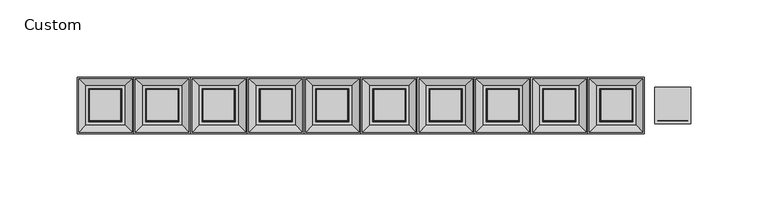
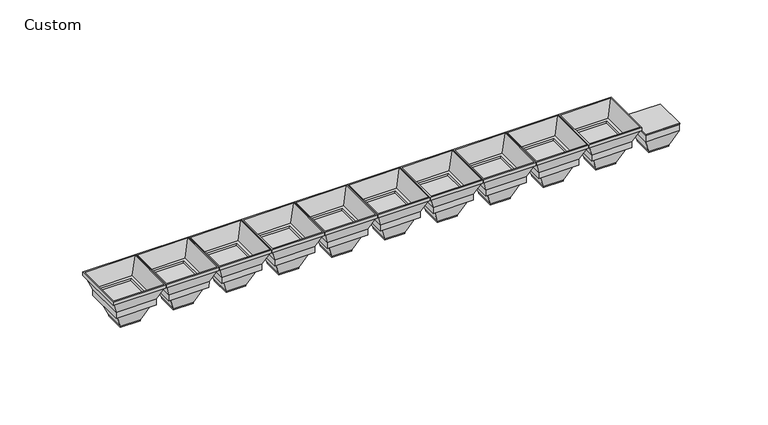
"""IFC4 building model written with IfcOpenShell, lengths in millimetres: light fixture geometry, Lighting-Pendant-Axis-Sculpt-Linear-MikroLite : Custom."""

from ifc_helpers import new_model, si_unit, frame, origin, place, context, project, spatial, polyline, outline, extrude, faceted_brep, source, transform, mapped, element, save


def custom_e5362112(model_context):
    return source(origin(), model_context, "Body", "SolidModel", [
        extrude(outline(polyline([(153.9668225, 11.7681775), (177.5031775, 11.7681775), (177.5031775, -11.7681775), (153.9668225, -11.7681775), (153.9668225, 11.7681775)])), frame((0.0, 0.0, 674.2085879), z_axis=(0.0, 0.0, 1.0), x_axis=(1.0, 0.0, 0.0)), (0.0, 0.0, 1.0), 0.79375),
        faceted_brep([(160.796646, 4.938354, 657.96345), (155.9794569, 9.7555431, 669.7971206), (155.9794569, -9.7555431, 669.7971206), (160.796646, -4.938354, 657.96345), (161.590396, 4.144604, 657.0197), (161.590396, 4.144604, 657.96345), (161.590396, -4.144604, 657.96345), (161.590396, -4.144604, 657.0197), (158.7847208, 6.9502792, 657.81345), (158.7847208, 6.9502792, 657.0197), (158.7847208, -6.9502792, 657.0197), (158.7847208, -6.9502792, 657.81345), (154.0660051, 11.6689949, 669.4052154), (154.0660051, -11.6689949, 669.4052154), (155.9049878, 9.8300122, 674.06345), (155.9049878, -9.8300122, 674.06345), (175.4905431, -9.7555431, 669.7971206), (170.673354, -4.938354, 657.96345), (169.879604, -4.144604, 657.96345), (169.879604, -4.144604, 657.0197), (172.6852792, -6.9502792, 657.0197), (172.6852792, -6.9502792, 657.81345), (177.4039949, -11.6689949, 669.4052154), (175.5650122, -9.8300122, 674.06345), (175.4905431, 9.7555431, 669.7971206), (170.673354, 4.938354, 657.96345), (169.879604, 4.144604, 657.96345), (169.879604, 4.144604, 657.0197), (172.6852792, 6.9502792, 657.0197), (172.6852792, 6.9502792, 657.81345), (177.4039949, 11.6689949, 669.4052154), (175.5650122, 9.8300122, 674.06345), (154.0660051, -11.6689949, 674.06345), (177.4039949, -11.6689949, 674.06345), (177.4039949, 11.6689949, 674.06345), (154.0660051, 11.6689949, 674.06345)], [[[0, 1, 2, 3]], [[4, 5, 6, 7]], [[8, 9, 10, 11]], [[12, 8, 11, 13]], [[1, 14, 15, 2]], [[3, 2, 16, 17]], [[7, 6, 18, 19]], [[11, 10, 20, 21]], [[13, 11, 21, 22]], [[2, 15, 23, 16]], [[17, 16, 24, 25]], [[19, 18, 26, 27]], [[21, 20, 28, 29]], [[22, 21, 29, 30]], [[16, 23, 31, 24]], [[25, 24, 1, 0]], [[3, 17, 25, 0], [5, 26, 18, 6]], [[27, 26, 5, 4]], [[9, 28, 20, 10], [7, 19, 27, 4]], [[29, 28, 9, 8]], [[30, 29, 8, 12]], [[32, 33, 34, 35], [14, 31, 23, 15]], [[24, 31, 14, 1]], [[35, 12, 13, 32]], [[32, 13, 22, 33]], [[33, 22, 30, 34]], [[34, 30, 12, 35]]]),
        faceted_brep([(148.11375, 17.62125, 684.05375), (151.736509, 13.998491, 674.8360445), (151.736509, -13.998491, 674.8360445), (148.11375, -17.62125, 684.05375), (147.32, 18.415, 686.59375), (147.32, 18.415, 684.05375), (147.32, -18.415, 684.05375), (147.32, -18.415, 686.59375), (152.7606011, 12.9743989, 676.2523379), (148.3175798, 17.4174202, 686.59375), (148.3175798, -17.4174202, 686.59375), (152.7606011, -12.9743989, 676.2523379), (155.775, 9.96, 675.0023379), (155.0533122, 10.6816878, 676.2523379), (155.0533122, -10.6816878, 676.2523379), (155.775, -9.96, 675.0023379), (153.8198564, 11.9151436, 670.4023379), (153.86, 11.875, 675.0023379), (153.86, -11.875, 675.0023379), (153.8198564, -11.9151436, 670.4023379), (151.7752013, 13.9597987, 670.4023379), (151.7752013, -13.9597987, 670.4023379), (179.733491, -13.998491, 674.8360445), (183.35625, -17.62125, 684.05375), (184.15, -18.415, 684.05375), (184.15, -18.415, 686.59375), (183.1524202, -17.4174202, 686.59375), (178.7093989, -12.9743989, 676.2523379), (176.4166878, -10.6816878, 676.2523379), (175.695, -9.96, 675.0023379), (177.61, -11.875, 675.0023379), (177.6501436, -11.9151436, 670.4023379), (179.6947987, -13.9597987, 670.4023379), (179.733491, 13.998491, 674.8360445), (183.35625, 17.62125, 684.05375), (184.15, 18.415, 684.05375), (184.15, 18.415, 686.59375), (183.1524202, 17.4174202, 686.59375), (178.7093989, 12.9743989, 676.2523379), (176.4166878, 10.6816878, 676.2523379), (175.695, 9.96, 675.0023379), (177.61, 11.875, 675.0023379), (177.6501436, 11.9151436, 670.4023379), (179.6947987, 13.9597987, 670.4023379)], [[[0, 1, 2, 3]], [[4, 5, 6, 7]], [[8, 9, 10, 11]], [[12, 13, 14, 15]], [[16, 17, 18, 19]], [[1, 20, 21, 2]], [[3, 2, 22, 23]], [[7, 6, 24, 25]], [[11, 10, 26, 27]], [[15, 14, 28, 29]], [[19, 18, 30, 31]], [[2, 21, 32, 22]], [[23, 22, 33, 34]], [[25, 24, 35, 36]], [[27, 26, 37, 38]], [[29, 28, 39, 40]], [[31, 30, 41, 42]], [[22, 32, 43, 33]], [[34, 33, 1, 0]], [[5, 35, 24, 6], [3, 23, 34, 0]], [[36, 35, 5, 4]], [[7, 25, 36, 4], [9, 37, 26, 10]], [[38, 37, 9, 8]], [[11, 27, 38, 8], [13, 39, 28, 14]], [[40, 39, 13, 12]], [[17, 41, 30, 18], [15, 29, 40, 12]], [[42, 41, 17, 16]], [[20, 43, 32, 21], [19, 31, 42, 16]], [[33, 43, 20, 1]]]),
        extrude(outline(polyline([(117.1368225, 11.7681775), (140.6731775, 11.7681775), (140.6731775, -11.7681775), (117.1368225, -11.7681775), (117.1368225, 11.7681775)])), frame((0.0, 0.0, 674.2085879), z_axis=(0.0, 0.0, 1.0), x_axis=(1.0, 0.0, 0.0)), (0.0, 0.0, 1.0), 0.79375),
        faceted_brep([(123.966646, 4.938354, 657.96345), (119.1494569, 9.7555431, 669.7971206), (119.1494569, -9.7555431, 669.7971206), (123.966646, -4.938354, 657.96345), (124.760396, 4.144604, 657.0197), (124.760396, 4.144604, 657.96345), (124.760396, -4.144604, 657.96345), (124.760396, -4.144604, 657.0197), (121.9547208, 6.9502792, 657.81345), (121.9547208, 6.9502792, 657.0197), (121.9547208, -6.9502792, 657.0197), (121.9547208, -6.9502792, 657.81345), (117.2360051, 11.6689949, 669.4052154), (117.2360051, -11.6689949, 669.4052154), (119.0749878, 9.8300122, 674.06345), (119.0749878, -9.8300122, 674.06345), (138.6605431, -9.7555431, 669.7971206), (133.843354, -4.938354, 657.96345), (133.049604, -4.144604, 657.96345), (133.049604, -4.144604, 657.0197), (135.8552792, -6.9502792, 657.0197), (135.8552792, -6.9502792, 657.81345), (140.5739949, -11.6689949, 669.4052154), (138.7350122, -9.8300122, 674.06345), (138.6605431, 9.7555431, 669.7971206), (133.843354, 4.938354, 657.96345), (133.049604, 4.144604, 657.96345), (133.049604, 4.144604, 657.0197), (135.8552792, 6.9502792, 657.0197), (135.8552792, 6.9502792, 657.81345), (140.5739949, 11.6689949, 669.4052154), (138.7350122, 9.8300122, 674.06345), (117.2360051, -11.6689949, 674.06345), (140.5739949, -11.6689949, 674.06345), (140.5739949, 11.6689949, 674.06345), (117.2360051, 11.6689949, 674.06345)], [[[0, 1, 2, 3]], [[4, 5, 6, 7]], [[8, 9, 10, 11]], [[12, 8, 11, 13]], [[1, 14, 15, 2]], [[3, 2, 16, 17]], [[7, 6, 18, 19]], [[11, 10, 20, 21]], [[13, 11, 21, 22]], [[2, 15, 23, 16]], [[17, 16, 24, 25]], [[19, 18, 26, 27]], [[21, 20, 28, 29]], [[22, 21, 29, 30]], [[16, 23, 31, 24]], [[25, 24, 1, 0]], [[3, 17, 25, 0], [5, 26, 18, 6]], [[27, 26, 5, 4]], [[9, 28, 20, 10], [7, 19, 27, 4]], [[29, 28, 9, 8]], [[30, 29, 8, 12]], [[32, 33, 34, 35], [14, 31, 23, 15]], [[24, 31, 14, 1]], [[35, 12, 13, 32]], [[32, 13, 22, 33]], [[33, 22, 30, 34]], [[34, 30, 12, 35]]]),
        faceted_brep([(111.28375, 17.62125, 684.05375), (114.906509, 13.998491, 674.8360445), (114.906509, -13.998491, 674.8360445), (111.28375, -17.62125, 684.05375), (110.49, 18.415, 686.59375), (110.49, 18.415, 684.05375), (110.49, -18.415, 684.05375), (110.49, -18.415, 686.59375), (115.9306011, 12.9743989, 676.2523379), (111.4875798, 17.4174202, 686.59375), (111.4875798, -17.4174202, 686.59375), (115.9306011, -12.9743989, 676.2523379), (118.945, 9.96, 675.0023379), (118.2233122, 10.6816878, 676.2523379), (118.2233122, -10.6816878, 676.2523379), (118.945, -9.96, 675.0023379), (116.9898564, 11.9151436, 670.4023379), (117.03, 11.875, 675.0023379), (117.03, -11.875, 675.0023379), (116.9898564, -11.9151436, 670.4023379), (114.9452013, 13.9597987, 670.4023379), (114.9452013, -13.9597987, 670.4023379), (142.903491, -13.998491, 674.8360445), (146.52625, -17.62125, 684.05375), (147.32, -18.415, 684.05375), (147.32, -18.415, 686.59375), (146.3224202, -17.4174202, 686.59375), (141.8793989, -12.9743989, 676.2523379), (139.5866878, -10.6816878, 676.2523379), (138.865, -9.96, 675.0023379), (140.78, -11.875, 675.0023379), (140.8201436, -11.9151436, 670.4023379), (142.8647987, -13.9597987, 670.4023379), (142.903491, 13.998491, 674.8360445), (146.52625, 17.62125, 684.05375), (147.32, 18.415, 684.05375), (147.32, 18.415, 686.59375), (146.3224202, 17.4174202, 686.59375), (141.8793989, 12.9743989, 676.2523379), (139.5866878, 10.6816878, 676.2523379), (138.865, 9.96, 675.0023379), (140.78, 11.875, 675.0023379), (140.8201436, 11.9151436, 670.4023379), (142.8647987, 13.9597987, 670.4023379)], [[[0, 1, 2, 3]], [[4, 5, 6, 7]], [[8, 9, 10, 11]], [[12, 13, 14, 15]], [[16, 17, 18, 19]], [[1, 20, 21, 2]], [[3, 2, 22, 23]], [[7, 6, 24, 25]], [[11, 10, 26, 27]], [[15, 14, 28, 29]], [[19, 18, 30, 31]], [[2, 21, 32, 22]], [[23, 22, 33, 34]], [[25, 24, 35, 36]], [[27, 26, 37, 38]], [[29, 28, 39, 40]], [[31, 30, 41, 42]], [[22, 32, 43, 33]], [[34, 33, 1, 0]], [[5, 35, 24, 6], [3, 23, 34, 0]], [[36, 35, 5, 4]], [[7, 25, 36, 4], [9, 37, 26, 10]], [[38, 37, 9, 8]], [[11, 27, 38, 8], [13, 39, 28, 14]], [[40, 39, 13, 12]], [[17, 41, 30, 18], [15, 29, 40, 12]], [[42, 41, 17, 16]], [[20, 43, 32, 21], [19, 31, 42, 16]], [[33, 43, 20, 1]]]),
        extrude(outline(polyline([(80.3068225, 11.7681775), (103.8431775, 11.7681775), (103.8431775, -11.7681775), (80.3068225, -11.7681775), (80.3068225, 11.7681775)])), frame((0.0, 0.0, 674.2085879), z_axis=(0.0, 0.0, 1.0), x_axis=(1.0, 0.0, 0.0)), (0.0, 0.0, 1.0), 0.79375),
        faceted_brep([(87.136646, 4.938354, 657.96345), (82.3194569, 9.7555431, 669.7971206), (82.3194569, -9.7555431, 669.7971206), (87.136646, -4.938354, 657.96345), (87.930396, 4.144604, 657.0197), (87.930396, 4.144604, 657.96345), (87.930396, -4.144604, 657.96345), (87.930396, -4.144604, 657.0197), (85.1247208, 6.9502792, 657.81345), (85.1247208, 6.9502792, 657.0197), (85.1247208, -6.9502792, 657.0197), (85.1247208, -6.9502792, 657.81345), (80.4060051, 11.6689949, 669.4052154), (80.4060051, -11.6689949, 669.4052154), (82.2449878, 9.8300122, 674.06345), (82.2449878, -9.8300122, 674.06345), (101.8305431, -9.7555431, 669.7971206), (97.013354, -4.938354, 657.96345), (96.219604, -4.144604, 657.96345), (96.219604, -4.144604, 657.0197), (99.0252792, -6.9502792, 657.0197), (99.0252792, -6.9502792, 657.81345), (103.7439949, -11.6689949, 669.4052154), (101.9050122, -9.8300122, 674.06345), (101.8305431, 9.7555431, 669.7971206), (97.013354, 4.938354, 657.96345), (96.219604, 4.144604, 657.96345), (96.219604, 4.144604, 657.0197), (99.0252792, 6.9502792, 657.0197), (99.0252792, 6.9502792, 657.81345), (103.7439949, 11.6689949, 669.4052154), (101.9050122, 9.8300122, 674.06345), (80.4060051, -11.6689949, 674.06345), (103.7439949, -11.6689949, 674.06345), (103.7439949, 11.6689949, 674.06345), (80.4060051, 11.6689949, 674.06345)], [[[0, 1, 2, 3]], [[4, 5, 6, 7]], [[8, 9, 10, 11]], [[12, 8, 11, 13]], [[1, 14, 15, 2]], [[3, 2, 16, 17]], [[7, 6, 18, 19]], [[11, 10, 20, 21]], [[13, 11, 21, 22]], [[2, 15, 23, 16]], [[17, 16, 24, 25]], [[19, 18, 26, 27]], [[21, 20, 28, 29]], [[22, 21, 29, 30]], [[16, 23, 31, 24]], [[25, 24, 1, 0]], [[3, 17, 25, 0], [5, 26, 18, 6]], [[27, 26, 5, 4]], [[9, 28, 20, 10], [7, 19, 27, 4]], [[29, 28, 9, 8]], [[30, 29, 8, 12]], [[32, 33, 34, 35], [14, 31, 23, 15]], [[24, 31, 14, 1]], [[35, 12, 13, 32]], [[32, 13, 22, 33]], [[33, 22, 30, 34]], [[34, 30, 12, 35]]]),
        faceted_brep([(74.45375, 17.62125, 684.05375), (78.076509, 13.998491, 674.8360445), (78.076509, -13.998491, 674.8360445), (74.45375, -17.62125, 684.05375), (73.66, 18.415, 686.59375), (73.66, 18.415, 684.05375), (73.66, -18.415, 684.05375), (73.66, -18.415, 686.59375), (79.1006011, 12.9743989, 676.2523379), (74.6575798, 17.4174202, 686.59375), (74.6575798, -17.4174202, 686.59375), (79.1006011, -12.9743989, 676.2523379), (82.115, 9.96, 675.0023379), (81.3933122, 10.6816878, 676.2523379), (81.3933122, -10.6816878, 676.2523379), (82.115, -9.96, 675.0023379), (80.1598564, 11.9151436, 670.4023379), (80.2, 11.875, 675.0023379), (80.2, -11.875, 675.0023379), (80.1598564, -11.9151436, 670.4023379), (78.1152013, 13.9597987, 670.4023379), (78.1152013, -13.9597987, 670.4023379), (106.073491, -13.998491, 674.8360445), (109.69625, -17.62125, 684.05375), (110.49, -18.415, 684.05375), (110.49, -18.415, 686.59375), (109.4924202, -17.4174202, 686.59375), (105.0493989, -12.9743989, 676.2523379), (102.7566878, -10.6816878, 676.2523379), (102.035, -9.96, 675.0023379), (103.95, -11.875, 675.0023379), (103.9901436, -11.9151436, 670.4023379), (106.0347987, -13.9597987, 670.4023379), (106.073491, 13.998491, 674.8360445), (109.69625, 17.62125, 684.05375), (110.49, 18.415, 684.05375), (110.49, 18.415, 686.59375), (109.4924202, 17.4174202, 686.59375), (105.0493989, 12.9743989, 676.2523379), (102.7566878, 10.6816878, 676.2523379), (102.035, 9.96, 675.0023379), (103.95, 11.875, 675.0023379), (103.9901436, 11.9151436, 670.4023379), (106.0347987, 13.9597987, 670.4023379)], [[[0, 1, 2, 3]], [[4, 5, 6, 7]], [[8, 9, 10, 11]], [[12, 13, 14, 15]], [[16, 17, 18, 19]], [[1, 20, 21, 2]], [[3, 2, 22, 23]], [[7, 6, 24, 25]], [[11, 10, 26, 27]], [[15, 14, 28, 29]], [[19, 18, 30, 31]], [[2, 21, 32, 22]], [[23, 22, 33, 34]], [[25, 24, 35, 36]], [[27, 26, 37, 38]], [[29, 28, 39, 40]], [[31, 30, 41, 42]], [[22, 32, 43, 33]], [[34, 33, 1, 0]], [[5, 35, 24, 6], [3, 23, 34, 0]], [[36, 35, 5, 4]], [[7, 25, 36, 4], [9, 37, 26, 10]], [[38, 37, 9, 8]], [[11, 27, 38, 8], [13, 39, 28, 14]], [[40, 39, 13, 12]], [[17, 41, 30, 18], [15, 29, 40, 12]], [[42, 41, 17, 16]], [[20, 43, 32, 21], [19, 31, 42, 16]], [[33, 43, 20, 1]]]),
        extrude(outline(polyline([(43.4768225, 11.7681775), (67.0131775, 11.7681775), (67.0131775, -11.7681775), (43.4768225, -11.7681775), (43.4768225, 11.7681775)])), frame((0.0, 0.0, 674.2085879), z_axis=(0.0, 0.0, 1.0), x_axis=(1.0, 0.0, 0.0)), (0.0, 0.0, 1.0), 0.79375),
        faceted_brep([(50.306646, 4.938354, 657.96345), (45.4894569, 9.7555431, 669.7971206), (45.4894569, -9.7555431, 669.7971206), (50.306646, -4.938354, 657.96345), (51.100396, 4.144604, 657.0197), (51.100396, 4.144604, 657.96345), (51.100396, -4.144604, 657.96345), (51.100396, -4.144604, 657.0197), (48.2947208, 6.9502792, 657.81345), (48.2947208, 6.9502792, 657.0197), (48.2947208, -6.9502792, 657.0197), (48.2947208, -6.9502792, 657.81345), (43.5760051, 11.6689949, 669.4052154), (43.5760051, -11.6689949, 669.4052154), (45.4149878, 9.8300122, 674.06345), (45.4149878, -9.8300122, 674.06345), (65.0005431, -9.7555431, 669.7971206), (60.183354, -4.938354, 657.96345), (59.389604, -4.144604, 657.96345), (59.389604, -4.144604, 657.0197), (62.1952792, -6.9502792, 657.0197), (62.1952792, -6.9502792, 657.81345), (66.9139949, -11.6689949, 669.4052154), (65.0750122, -9.8300122, 674.06345), (65.0005431, 9.7555431, 669.7971206), (60.183354, 4.938354, 657.96345), (59.389604, 4.144604, 657.96345), (59.389604, 4.144604, 657.0197), (62.1952792, 6.9502792, 657.0197), (62.1952792, 6.9502792, 657.81345), (66.9139949, 11.6689949, 669.4052154), (65.0750122, 9.8300122, 674.06345), (43.5760051, -11.6689949, 674.06345), (66.9139949, -11.6689949, 674.06345), (66.9139949, 11.6689949, 674.06345), (43.5760051, 11.6689949, 674.06345)], [[[0, 1, 2, 3]], [[4, 5, 6, 7]], [[8, 9, 10, 11]], [[12, 8, 11, 13]], [[1, 14, 15, 2]], [[3, 2, 16, 17]], [[7, 6, 18, 19]], [[11, 10, 20, 21]], [[13, 11, 21, 22]], [[2, 15, 23, 16]], [[17, 16, 24, 25]], [[19, 18, 26, 27]], [[21, 20, 28, 29]], [[22, 21, 29, 30]], [[16, 23, 31, 24]], [[25, 24, 1, 0]], [[3, 17, 25, 0], [5, 26, 18, 6]], [[27, 26, 5, 4]], [[9, 28, 20, 10], [7, 19, 27, 4]], [[29, 28, 9, 8]], [[30, 29, 8, 12]], [[32, 33, 34, 35], [14, 31, 23, 15]], [[24, 31, 14, 1]], [[35, 12, 13, 32]], [[32, 13, 22, 33]], [[33, 22, 30, 34]], [[34, 30, 12, 35]]]),
        faceted_brep([(37.62375, 17.62125, 684.05375), (41.246509, 13.998491, 674.8360445), (41.246509, -13.998491, 674.8360445), (37.62375, -17.62125, 684.05375), (36.83, 18.415, 686.59375), (36.83, 18.415, 684.05375), (36.83, -18.415, 684.05375), (36.83, -18.415, 686.59375), (42.2706011, 12.9743989, 676.2523379), (37.8275798, 17.4174202, 686.59375), (37.8275798, -17.4174202, 686.59375), (42.2706011, -12.9743989, 676.2523379), (45.285, 9.96, 675.0023379), (44.5633122, 10.6816878, 676.2523379), (44.5633122, -10.6816878, 676.2523379), (45.285, -9.96, 675.0023379), (43.3298564, 11.9151436, 670.4023379), (43.37, 11.875, 675.0023379), (43.37, -11.875, 675.0023379), (43.3298564, -11.9151436, 670.4023379), (41.2852013, 13.9597987, 670.4023379), (41.2852013, -13.9597987, 670.4023379), (69.243491, -13.998491, 674.8360445), (72.86625, -17.62125, 684.05375), (73.66, -18.415, 684.05375), (73.66, -18.415, 686.59375), (72.6624202, -17.4174202, 686.59375), (68.2193989, -12.9743989, 676.2523379), (65.9266878, -10.6816878, 676.2523379), (65.205, -9.96, 675.0023379), (67.12, -11.875, 675.0023379), (67.1601436, -11.9151436, 670.4023379), (69.2047987, -13.9597987, 670.4023379), (69.243491, 13.998491, 674.8360445), (72.86625, 17.62125, 684.05375), (73.66, 18.415, 684.05375), (73.66, 18.415, 686.59375), (72.6624202, 17.4174202, 686.59375), (68.2193989, 12.9743989, 676.2523379), (65.9266878, 10.6816878, 676.2523379), (65.205, 9.96, 675.0023379), (67.12, 11.875, 675.0023379), (67.1601436, 11.9151436, 670.4023379), (69.2047987, 13.9597987, 670.4023379)], [[[0, 1, 2, 3]], [[4, 5, 6, 7]], [[8, 9, 10, 11]], [[12, 13, 14, 15]], [[16, 17, 18, 19]], [[1, 20, 21, 2]], [[3, 2, 22, 23]], [[7, 6, 24, 25]], [[11, 10, 26, 27]], [[15, 14, 28, 29]], [[19, 18, 30, 31]], [[2, 21, 32, 22]], [[23, 22, 33, 34]], [[25, 24, 35, 36]], [[27, 26, 37, 38]], [[29, 28, 39, 40]], [[31, 30, 41, 42]], [[22, 32, 43, 33]], [[34, 33, 1, 0]], [[5, 35, 24, 6], [3, 23, 34, 0]], [[36, 35, 5, 4]], [[7, 25, 36, 4], [9, 37, 26, 10]], [[38, 37, 9, 8]], [[11, 27, 38, 8], [13, 39, 28, 14]], [[40, 39, 13, 12]], [[17, 41, 30, 18], [15, 29, 40, 12]], [[42, 41, 17, 16]], [[20, 43, 32, 21], [19, 31, 42, 16]], [[33, 43, 20, 1]]]),
        extrude(outline(polyline([(6.6468225, 11.7681775), (30.1831775, 11.7681775), (30.1831775, -11.7681775), (6.6468225, -11.7681775), (6.6468225, 11.7681775)])), frame((0.0, 0.0, 674.2085879), z_axis=(0.0, 0.0, 1.0), x_axis=(1.0, 0.0, 0.0)), (0.0, 0.0, 1.0), 0.79375),
        faceted_brep([(13.476646, 4.938354, 657.96345), (8.6594569, 9.7555431, 669.7971206), (8.6594569, -9.7555431, 669.7971206), (13.476646, -4.938354, 657.96345), (14.270396, 4.144604, 657.0197), (14.270396, 4.144604, 657.96345), (14.270396, -4.144604, 657.96345), (14.270396, -4.144604, 657.0197), (11.4647208, 6.9502792, 657.81345), (11.4647208, 6.9502792, 657.0197), (11.4647208, -6.9502792, 657.0197), (11.4647208, -6.9502792, 657.81345), (6.7460051, 11.6689949, 669.4052154), (6.7460051, -11.6689949, 669.4052154), (8.5849878, 9.8300122, 674.06345), (8.5849878, -9.8300122, 674.06345), (28.1705431, -9.7555431, 669.7971206), (23.353354, -4.938354, 657.96345), (22.559604, -4.144604, 657.96345), (22.559604, -4.144604, 657.0197), (25.3652792, -6.9502792, 657.0197), (25.3652792, -6.9502792, 657.81345), (30.0839949, -11.6689949, 669.4052154), (28.2450122, -9.8300122, 674.06345), (28.1705431, 9.7555431, 669.7971206), (23.353354, 4.938354, 657.96345), (22.559604, 4.144604, 657.96345), (22.559604, 4.144604, 657.0197), (25.3652792, 6.9502792, 657.0197), (25.3652792, 6.9502792, 657.81345), (30.0839949, 11.6689949, 669.4052154), (28.2450122, 9.8300122, 674.06345), (6.7460051, -11.6689949, 674.06345), (30.0839949, -11.6689949, 674.06345), (30.0839949, 11.6689949, 674.06345), (6.7460051, 11.6689949, 674.06345)], [[[0, 1, 2, 3]], [[4, 5, 6, 7]], [[8, 9, 10, 11]], [[12, 8, 11, 13]], [[1, 14, 15, 2]], [[3, 2, 16, 17]], [[7, 6, 18, 19]], [[11, 10, 20, 21]], [[13, 11, 21, 22]], [[2, 15, 23, 16]], [[17, 16, 24, 25]], [[19, 18, 26, 27]], [[21, 20, 28, 29]], [[22, 21, 29, 30]], [[16, 23, 31, 24]], [[25, 24, 1, 0]], [[3, 17, 25, 0], [5, 26, 18, 6]], [[27, 26, 5, 4]], [[9, 28, 20, 10], [7, 19, 27, 4]], [[29, 28, 9, 8]], [[30, 29, 8, 12]], [[32, 33, 34, 35], [14, 31, 23, 15]], [[24, 31, 14, 1]], [[35, 12, 13, 32]], [[32, 13, 22, 33]], [[33, 22, 30, 34]], [[34, 30, 12, 35]]]),
        faceted_brep([(0.79375, 17.62125, 684.05375), (4.416509, 13.998491, 674.8360445), (4.416509, -13.998491, 674.8360445), (0.79375, -17.62125, 684.05375), (0.0, 18.415, 686.59375), (0.0, 18.415, 684.05375), (0.0, -18.415, 684.05375), (0.0, -18.415, 686.59375), (5.4406011, 12.9743989, 676.2523379), (0.9975798, 17.4174202, 686.59375), (0.9975798, -17.4174202, 686.59375), (5.4406011, -12.9743989, 676.2523379), (8.455, 9.96, 675.0023379), (7.7333122, 10.6816878, 676.2523379), (7.7333122, -10.6816878, 676.2523379), (8.455, -9.96, 675.0023379), (6.4998564, 11.9151436, 670.4023379), (6.54, 11.875, 675.0023379), (6.54, -11.875, 675.0023379), (6.4998564, -11.9151436, 670.4023379), (4.4552013, 13.9597987, 670.4023379), (4.4552013, -13.9597987, 670.4023379), (32.413491, -13.998491, 674.8360445), (36.03625, -17.62125, 684.05375), (36.83, -18.415, 684.05375), (36.83, -18.415, 686.59375), (35.8324202, -17.4174202, 686.59375), (31.3893989, -12.9743989, 676.2523379), (29.0966878, -10.6816878, 676.2523379), (28.375, -9.96, 675.0023379), (30.29, -11.875, 675.0023379), (30.3301436, -11.9151436, 670.4023379), (32.3747987, -13.9597987, 670.4023379), (32.413491, 13.998491, 674.8360445), (36.03625, 17.62125, 684.05375), (36.83, 18.415, 684.05375), (36.83, 18.415, 686.59375), (35.8324202, 17.4174202, 686.59375), (31.3893989, 12.9743989, 676.2523379), (29.0966878, 10.6816878, 676.2523379), (28.375, 9.96, 675.0023379), (30.29, 11.875, 675.0023379), (30.3301436, 11.9151436, 670.4023379), (32.3747987, 13.9597987, 670.4023379)], [[[0, 1, 2, 3]], [[4, 5, 6, 7]], [[8, 9, 10, 11]], [[12, 13, 14, 15]], [[16, 17, 18, 19]], [[1, 20, 21, 2]], [[3, 2, 22, 23]], [[7, 6, 24, 25]], [[11, 10, 26, 27]], [[15, 14, 28, 29]], [[19, 18, 30, 31]], [[2, 21, 32, 22]], [[23, 22, 33, 34]], [[25, 24, 35, 36]], [[27, 26, 37, 38]], [[29, 28, 39, 40]], [[31, 30, 41, 42]], [[22, 32, 43, 33]], [[34, 33, 1, 0]], [[5, 35, 24, 6], [3, 23, 34, 0]], [[36, 35, 5, 4]], [[7, 25, 36, 4], [9, 37, 26, 10]], [[38, 37, 9, 8]], [[11, 27, 38, 8], [13, 39, 28, 14]], [[40, 39, 13, 12]], [[17, 41, 30, 18], [15, 29, 40, 12]], [[42, 41, 17, 16]], [[20, 43, 32, 21], [19, 31, 42, 16]], [[33, 43, 20, 1]]]),
        extrude(outline(polyline([(-30.1831775, 11.7681775), (-6.6468225, 11.7681775), (-6.6468225, -11.7681775), (-30.1831775, -11.7681775), (-30.1831775, 11.7681775)])), frame((0.0, 0.0, 674.2085879), z_axis=(0.0, 0.0, 1.0), x_axis=(1.0, 0.0, 0.0)), (0.0, 0.0, 1.0), 0.79375),
        faceted_brep([(-23.353354, 4.938354, 657.96345), (-28.1705431, 9.7555431, 669.7971206), (-28.1705431, -9.7555431, 669.7971206), (-23.353354, -4.938354, 657.96345), (-22.559604, 4.144604, 657.0197), (-22.559604, 4.144604, 657.96345), (-22.559604, -4.144604, 657.96345), (-22.559604, -4.144604, 657.0197), (-25.3652792, 6.9502792, 657.81345), (-25.3652792, 6.9502792, 657.0197), (-25.3652792, -6.9502792, 657.0197), (-25.3652792, -6.9502792, 657.81345), (-30.0839949, 11.6689949, 669.4052154), (-30.0839949, -11.6689949, 669.4052154), (-28.2450122, 9.8300122, 674.06345), (-28.2450122, -9.8300122, 674.06345), (-8.6594569, -9.7555431, 669.7971206), (-13.476646, -4.938354, 657.96345), (-14.270396, -4.144604, 657.96345), (-14.270396, -4.144604, 657.0197), (-11.4647208, -6.9502792, 657.0197), (-11.4647208, -6.9502792, 657.81345), (-6.7460051, -11.6689949, 669.4052154), (-8.5849878, -9.8300122, 674.06345), (-8.6594569, 9.7555431, 669.7971206), (-13.476646, 4.938354, 657.96345), (-14.270396, 4.144604, 657.96345), (-14.270396, 4.144604, 657.0197), (-11.4647208, 6.9502792, 657.0197), (-11.4647208, 6.9502792, 657.81345), (-6.7460051, 11.6689949, 669.4052154), (-8.5849878, 9.8300122, 674.06345), (-30.0839949, -11.6689949, 674.06345), (-6.7460051, -11.6689949, 674.06345), (-6.7460051, 11.6689949, 674.06345), (-30.0839949, 11.6689949, 674.06345)], [[[0, 1, 2, 3]], [[4, 5, 6, 7]], [[8, 9, 10, 11]], [[12, 8, 11, 13]], [[1, 14, 15, 2]], [[3, 2, 16, 17]], [[7, 6, 18, 19]], [[11, 10, 20, 21]], [[13, 11, 21, 22]], [[2, 15, 23, 16]], [[17, 16, 24, 25]], [[19, 18, 26, 27]], [[21, 20, 28, 29]], [[22, 21, 29, 30]], [[16, 23, 31, 24]], [[25, 24, 1, 0]], [[3, 17, 25, 0], [5, 26, 18, 6]], [[27, 26, 5, 4]], [[9, 28, 20, 10], [7, 19, 27, 4]], [[29, 28, 9, 8]], [[30, 29, 8, 12]], [[32, 33, 34, 35], [14, 31, 23, 15]], [[24, 31, 14, 1]], [[35, 12, 13, 32]], [[32, 13, 22, 33]], [[33, 22, 30, 34]], [[34, 30, 12, 35]]]),
        faceted_brep([(-36.03625, 17.62125, 684.05375), (-32.413491, 13.998491, 674.8360445), (-32.413491, -13.998491, 674.8360445), (-36.03625, -17.62125, 684.05375), (-36.83, 18.415, 686.59375), (-36.83, 18.415, 684.05375), (-36.83, -18.415, 684.05375), (-36.83, -18.415, 686.59375), (-31.3893989, 12.9743989, 676.2523379), (-35.8324202, 17.4174202, 686.59375), (-35.8324202, -17.4174202, 686.59375), (-31.3893989, -12.9743989, 676.2523379), (-28.375, 9.96, 675.0023379), (-29.0966878, 10.6816878, 676.2523379), (-29.0966878, -10.6816878, 676.2523379), (-28.375, -9.96, 675.0023379), (-30.3301436, 11.9151436, 670.4023379), (-30.29, 11.875, 675.0023379), (-30.29, -11.875, 675.0023379), (-30.3301436, -11.9151436, 670.4023379), (-32.3747987, 13.9597987, 670.4023379), (-32.3747987, -13.9597987, 670.4023379), (-4.416509, -13.998491, 674.8360445), (-0.79375, -17.62125, 684.05375), (0.0, -18.415, 684.05375), (0.0, -18.415, 686.59375), (-0.9975798, -17.4174202, 686.59375), (-5.4406011, -12.9743989, 676.2523379), (-7.7333122, -10.6816878, 676.2523379), (-8.455, -9.96, 675.0023379), (-6.54, -11.875, 675.0023379), (-6.4998564, -11.9151436, 670.4023379), (-4.4552013, -13.9597987, 670.4023379), (-4.416509, 13.998491, 674.8360445), (-0.79375, 17.62125, 684.05375), (0.0, 18.415, 684.05375), (0.0, 18.415, 686.59375), (-0.9975798, 17.4174202, 686.59375), (-5.4406011, 12.9743989, 676.2523379), (-7.7333122, 10.6816878, 676.2523379), (-8.455, 9.96, 675.0023379), (-6.54, 11.875, 675.0023379), (-6.4998564, 11.9151436, 670.4023379), (-4.4552013, 13.9597987, 670.4023379)], [[[0, 1, 2, 3]], [[4, 5, 6, 7]], [[8, 9, 10, 11]], [[12, 13, 14, 15]], [[16, 17, 18, 19]], [[1, 20, 21, 2]], [[3, 2, 22, 23]], [[7, 6, 24, 25]], [[11, 10, 26, 27]], [[15, 14, 28, 29]], [[19, 18, 30, 31]], [[2, 21, 32, 22]], [[23, 22, 33, 34]], [[25, 24, 35, 36]], [[27, 26, 37, 38]], [[29, 28, 39, 40]], [[31, 30, 41, 42]], [[22, 32, 43, 33]], [[34, 33, 1, 0]], [[5, 35, 24, 6], [3, 23, 34, 0]], [[36, 35, 5, 4]], [[7, 25, 36, 4], [9, 37, 26, 10]], [[38, 37, 9, 8]], [[11, 27, 38, 8], [13, 39, 28, 14]], [[40, 39, 13, 12]], [[17, 41, 30, 18], [15, 29, 40, 12]], [[42, 41, 17, 16]], [[20, 43, 32, 21], [19, 31, 42, 16]], [[33, 43, 20, 1]]]),
        extrude(outline(polyline([(-67.0131775, 11.7681775), (-43.4768225, 11.7681775), (-43.4768225, -11.7681775), (-67.0131775, -11.7681775), (-67.0131775, 11.7681775)])), frame((0.0, 0.0, 674.2085879), z_axis=(0.0, 0.0, 1.0), x_axis=(1.0, 0.0, 0.0)), (0.0, 0.0, 1.0), 0.79375),
        faceted_brep([(-60.183354, 4.938354, 657.96345), (-65.0005431, 9.7555431, 669.7971206), (-65.0005431, -9.7555431, 669.7971206), (-60.183354, -4.938354, 657.96345), (-59.389604, 4.144604, 657.0197), (-59.389604, 4.144604, 657.96345), (-59.389604, -4.144604, 657.96345), (-59.389604, -4.144604, 657.0197), (-62.1952792, 6.9502792, 657.81345), (-62.1952792, 6.9502792, 657.0197), (-62.1952792, -6.9502792, 657.0197), (-62.1952792, -6.9502792, 657.81345), (-66.9139949, 11.6689949, 669.4052154), (-66.9139949, -11.6689949, 669.4052154), (-65.0750122, 9.8300122, 674.06345), (-65.0750122, -9.8300122, 674.06345), (-45.4894569, -9.7555431, 669.7971206), (-50.306646, -4.938354, 657.96345), (-51.100396, -4.144604, 657.96345), (-51.100396, -4.144604, 657.0197), (-48.2947208, -6.9502792, 657.0197), (-48.2947208, -6.9502792, 657.81345), (-43.5760051, -11.6689949, 669.4052154), (-45.4149878, -9.8300122, 674.06345), (-45.4894569, 9.7555431, 669.7971206), (-50.306646, 4.938354, 657.96345), (-51.100396, 4.144604, 657.96345), (-51.100396, 4.144604, 657.0197), (-48.2947208, 6.9502792, 657.0197), (-48.2947208, 6.9502792, 657.81345), (-43.5760051, 11.6689949, 669.4052154), (-45.4149878, 9.8300122, 674.06345), (-66.9139949, -11.6689949, 674.06345), (-43.5760051, -11.6689949, 674.06345), (-43.5760051, 11.6689949, 674.06345), (-66.9139949, 11.6689949, 674.06345)], [[[0, 1, 2, 3]], [[4, 5, 6, 7]], [[8, 9, 10, 11]], [[12, 8, 11, 13]], [[1, 14, 15, 2]], [[3, 2, 16, 17]], [[7, 6, 18, 19]], [[11, 10, 20, 21]], [[13, 11, 21, 22]], [[2, 15, 23, 16]], [[17, 16, 24, 25]], [[19, 18, 26, 27]], [[21, 20, 28, 29]], [[22, 21, 29, 30]], [[16, 23, 31, 24]], [[25, 24, 1, 0]], [[3, 17, 25, 0], [5, 26, 18, 6]], [[27, 26, 5, 4]], [[9, 28, 20, 10], [7, 19, 27, 4]], [[29, 28, 9, 8]], [[30, 29, 8, 12]], [[32, 33, 34, 35], [14, 31, 23, 15]], [[24, 31, 14, 1]], [[35, 12, 13, 32]], [[32, 13, 22, 33]], [[33, 22, 30, 34]], [[34, 30, 12, 35]]]),
        faceted_brep([(-72.86625, 17.62125, 684.05375), (-69.243491, 13.998491, 674.8360445), (-69.243491, -13.998491, 674.8360445), (-72.86625, -17.62125, 684.05375), (-73.66, 18.415, 686.59375), (-73.66, 18.415, 684.05375), (-73.66, -18.415, 684.05375), (-73.66, -18.415, 686.59375), (-68.2193989, 12.9743989, 676.2523379), (-72.6624202, 17.4174202, 686.59375), (-72.6624202, -17.4174202, 686.59375), (-68.2193989, -12.9743989, 676.2523379), (-65.205, 9.96, 675.0023379), (-65.9266878, 10.6816878, 676.2523379), (-65.9266878, -10.6816878, 676.2523379), (-65.205, -9.96, 675.0023379), (-67.1601436, 11.9151436, 670.4023379), (-67.12, 11.875, 675.0023379), (-67.12, -11.875, 675.0023379), (-67.1601436, -11.9151436, 670.4023379), (-69.2047987, 13.9597987, 670.4023379), (-69.2047987, -13.9597987, 670.4023379), (-41.246509, -13.998491, 674.8360445), (-37.62375, -17.62125, 684.05375), (-36.83, -18.415, 684.05375), (-36.83, -18.415, 686.59375), (-37.8275798, -17.4174202, 686.59375), (-42.2706011, -12.9743989, 676.2523379), (-44.5633122, -10.6816878, 676.2523379), (-45.285, -9.96, 675.0023379), (-43.37, -11.875, 675.0023379), (-43.3298564, -11.9151436, 670.4023379), (-41.2852013, -13.9597987, 670.4023379), (-41.246509, 13.998491, 674.8360445), (-37.62375, 17.62125, 684.05375), (-36.83, 18.415, 684.05375), (-36.83, 18.415, 686.59375), (-37.8275798, 17.4174202, 686.59375), (-42.2706011, 12.9743989, 676.2523379), (-44.5633122, 10.6816878, 676.2523379), (-45.285, 9.96, 675.0023379), (-43.37, 11.875, 675.0023379), (-43.3298564, 11.9151436, 670.4023379), (-41.2852013, 13.9597987, 670.4023379)], [[[0, 1, 2, 3]], [[4, 5, 6, 7]], [[8, 9, 10, 11]], [[12, 13, 14, 15]], [[16, 17, 18, 19]], [[1, 20, 21, 2]], [[3, 2, 22, 23]], [[7, 6, 24, 25]], [[11, 10, 26, 27]], [[15, 14, 28, 29]], [[19, 18, 30, 31]], [[2, 21, 32, 22]], [[23, 22, 33, 34]], [[25, 24, 35, 36]], [[27, 26, 37, 38]], [[29, 28, 39, 40]], [[31, 30, 41, 42]], [[22, 32, 43, 33]], [[34, 33, 1, 0]], [[5, 35, 24, 6], [3, 23, 34, 0]], [[36, 35, 5, 4]], [[7, 25, 36, 4], [9, 37, 26, 10]], [[38, 37, 9, 8]], [[11, 27, 38, 8], [13, 39, 28, 14]], [[40, 39, 13, 12]], [[17, 41, 30, 18], [15, 29, 40, 12]], [[42, 41, 17, 16]], [[20, 43, 32, 21], [19, 31, 42, 16]], [[33, 43, 20, 1]]]),
        extrude(outline(polyline([(-103.8431775, 11.7681775), (-80.3068225, 11.7681775), (-80.3068225, -11.7681775), (-103.8431775, -11.7681775), (-103.8431775, 11.7681775)])), frame((0.0, 0.0, 674.2085879), z_axis=(0.0, 0.0, 1.0), x_axis=(1.0, 0.0, 0.0)), (0.0, 0.0, 1.0), 0.79375),
        faceted_brep([(-97.013354, 4.938354, 657.96345), (-101.8305431, 9.7555431, 669.7971206), (-101.8305431, -9.7555431, 669.7971206), (-97.013354, -4.938354, 657.96345), (-96.219604, 4.144604, 657.0197), (-96.219604, 4.144604, 657.96345), (-96.219604, -4.144604, 657.96345), (-96.219604, -4.144604, 657.0197), (-99.0252792, 6.9502792, 657.81345), (-99.0252792, 6.9502792, 657.0197), (-99.0252792, -6.9502792, 657.0197), (-99.0252792, -6.9502792, 657.81345), (-103.7439949, 11.6689949, 669.4052154), (-103.7439949, -11.6689949, 669.4052154), (-101.9050122, 9.8300122, 674.06345), (-101.9050122, -9.8300122, 674.06345), (-82.3194569, -9.7555431, 669.7971206), (-87.136646, -4.938354, 657.96345), (-87.930396, -4.144604, 657.96345), (-87.930396, -4.144604, 657.0197), (-85.1247208, -6.9502792, 657.0197), (-85.1247208, -6.9502792, 657.81345), (-80.4060051, -11.6689949, 669.4052154), (-82.2449878, -9.8300122, 674.06345), (-82.3194569, 9.7555431, 669.7971206), (-87.136646, 4.938354, 657.96345), (-87.930396, 4.144604, 657.96345), (-87.930396, 4.144604, 657.0197), (-85.1247208, 6.9502792, 657.0197), (-85.1247208, 6.9502792, 657.81345), (-80.4060051, 11.6689949, 669.4052154), (-82.2449878, 9.8300122, 674.06345), (-103.7439949, -11.6689949, 674.06345), (-80.4060051, -11.6689949, 674.06345), (-80.4060051, 11.6689949, 674.06345), (-103.7439949, 11.6689949, 674.06345)], [[[0, 1, 2, 3]], [[4, 5, 6, 7]], [[8, 9, 10, 11]], [[12, 8, 11, 13]], [[1, 14, 15, 2]], [[3, 2, 16, 17]], [[7, 6, 18, 19]], [[11, 10, 20, 21]], [[13, 11, 21, 22]], [[2, 15, 23, 16]], [[17, 16, 24, 25]], [[19, 18, 26, 27]], [[21, 20, 28, 29]], [[22, 21, 29, 30]], [[16, 23, 31, 24]], [[25, 24, 1, 0]], [[3, 17, 25, 0], [5, 26, 18, 6]], [[27, 26, 5, 4]], [[9, 28, 20, 10], [7, 19, 27, 4]], [[29, 28, 9, 8]], [[30, 29, 8, 12]], [[32, 33, 34, 35], [14, 31, 23, 15]], [[24, 31, 14, 1]], [[35, 12, 13, 32]], [[32, 13, 22, 33]], [[33, 22, 30, 34]], [[34, 30, 12, 35]]]),
        faceted_brep([(-109.69625, 17.62125, 684.05375), (-106.073491, 13.998491, 674.8360445), (-106.073491, -13.998491, 674.8360445), (-109.69625, -17.62125, 684.05375), (-110.49, 18.415, 686.59375), (-110.49, 18.415, 684.05375), (-110.49, -18.415, 684.05375), (-110.49, -18.415, 686.59375), (-105.0493989, 12.9743989, 676.2523379), (-109.4924202, 17.4174202, 686.59375), (-109.4924202, -17.4174202, 686.59375), (-105.0493989, -12.9743989, 676.2523379), (-102.035, 9.96, 675.0023379), (-102.7566878, 10.6816878, 676.2523379), (-102.7566878, -10.6816878, 676.2523379), (-102.035, -9.96, 675.0023379), (-103.9901436, 11.9151436, 670.4023379), (-103.95, 11.875, 675.0023379), (-103.95, -11.875, 675.0023379), (-103.9901436, -11.9151436, 670.4023379), (-106.0347987, 13.9597987, 670.4023379), (-106.0347987, -13.9597987, 670.4023379), (-78.076509, -13.998491, 674.8360445), (-74.45375, -17.62125, 684.05375), (-73.66, -18.415, 684.05375), (-73.66, -18.415, 686.59375), (-74.6575798, -17.4174202, 686.59375), (-79.1006011, -12.9743989, 676.2523379), (-81.3933122, -10.6816878, 676.2523379), (-82.115, -9.96, 675.0023379), (-80.2, -11.875, 675.0023379), (-80.1598564, -11.9151436, 670.4023379), (-78.1152013, -13.9597987, 670.4023379), (-78.076509, 13.998491, 674.8360445), (-74.45375, 17.62125, 684.05375), (-73.66, 18.415, 684.05375), (-73.66, 18.415, 686.59375), (-74.6575798, 17.4174202, 686.59375), (-79.1006011, 12.9743989, 676.2523379), (-81.3933122, 10.6816878, 676.2523379), (-82.115, 9.96, 675.0023379), (-80.2, 11.875, 675.0023379), (-80.1598564, 11.9151436, 670.4023379), (-78.1152013, 13.9597987, 670.4023379)], [[[0, 1, 2, 3]], [[4, 5, 6, 7]], [[8, 9, 10, 11]], [[12, 13, 14, 15]], [[16, 17, 18, 19]], [[1, 20, 21, 2]], [[3, 2, 22, 23]], [[7, 6, 24, 25]], [[11, 10, 26, 27]], [[15, 14, 28, 29]], [[19, 18, 30, 31]], [[2, 21, 32, 22]], [[23, 22, 33, 34]], [[25, 24, 35, 36]], [[27, 26, 37, 38]], [[29, 28, 39, 40]], [[31, 30, 41, 42]], [[22, 32, 43, 33]], [[34, 33, 1, 0]], [[5, 35, 24, 6], [3, 23, 34, 0]], [[36, 35, 5, 4]], [[7, 25, 36, 4], [9, 37, 26, 10]], [[38, 37, 9, 8]], [[11, 27, 38, 8], [13, 39, 28, 14]], [[40, 39, 13, 12]], [[17, 41, 30, 18], [15, 29, 40, 12]], [[42, 41, 17, 16]], [[20, 43, 32, 21], [19, 31, 42, 16]], [[33, 43, 20, 1]]]),
        extrude(outline(polyline([(-140.6731775, 11.7681775), (-117.1368225, 11.7681775), (-117.1368225, -11.7681775), (-140.6731775, -11.7681775), (-140.6731775, 11.7681775)])), frame((0.0, 0.0, 674.2085879), z_axis=(0.0, 0.0, 1.0), x_axis=(1.0, 0.0, 0.0)), (0.0, 0.0, 1.0), 0.79375),
        faceted_brep([(-133.843354, 4.938354, 657.96345), (-138.6605431, 9.7555431, 669.7971206), (-138.6605431, -9.7555431, 669.7971206), (-133.843354, -4.938354, 657.96345), (-133.049604, 4.144604, 657.0197), (-133.049604, 4.144604, 657.96345), (-133.049604, -4.144604, 657.96345), (-133.049604, -4.144604, 657.0197), (-135.8552792, 6.9502792, 657.81345), (-135.8552792, 6.9502792, 657.0197), (-135.8552792, -6.9502792, 657.0197), (-135.8552792, -6.9502792, 657.81345), (-140.5739949, 11.6689949, 669.4052154), (-140.5739949, -11.6689949, 669.4052154), (-138.7350122, 9.8300122, 674.06345), (-138.7350122, -9.8300122, 674.06345), (-119.1494569, -9.7555431, 669.7971206), (-123.966646, -4.938354, 657.96345), (-124.760396, -4.144604, 657.96345), (-124.760396, -4.144604, 657.0197), (-121.9547208, -6.9502792, 657.0197), (-121.9547208, -6.9502792, 657.81345), (-117.2360051, -11.6689949, 669.4052154), (-119.0749878, -9.8300122, 674.06345), (-119.1494569, 9.7555431, 669.7971206), (-123.966646, 4.938354, 657.96345), (-124.760396, 4.144604, 657.96345), (-124.760396, 4.144604, 657.0197), (-121.9547208, 6.9502792, 657.0197), (-121.9547208, 6.9502792, 657.81345), (-117.2360051, 11.6689949, 669.4052154), (-119.0749878, 9.8300122, 674.06345), (-140.5739949, -11.6689949, 674.06345), (-117.2360051, -11.6689949, 674.06345), (-117.2360051, 11.6689949, 674.06345), (-140.5739949, 11.6689949, 674.06345)], [[[0, 1, 2, 3]], [[4, 5, 6, 7]], [[8, 9, 10, 11]], [[12, 8, 11, 13]], [[1, 14, 15, 2]], [[3, 2, 16, 17]], [[7, 6, 18, 19]], [[11, 10, 20, 21]], [[13, 11, 21, 22]], [[2, 15, 23, 16]], [[17, 16, 24, 25]], [[19, 18, 26, 27]], [[21, 20, 28, 29]], [[22, 21, 29, 30]], [[16, 23, 31, 24]], [[25, 24, 1, 0]], [[3, 17, 25, 0], [5, 26, 18, 6]], [[27, 26, 5, 4]], [[9, 28, 20, 10], [7, 19, 27, 4]], [[29, 28, 9, 8]], [[30, 29, 8, 12]], [[32, 33, 34, 35], [14, 31, 23, 15]], [[24, 31, 14, 1]], [[35, 12, 13, 32]], [[32, 13, 22, 33]], [[33, 22, 30, 34]], [[34, 30, 12, 35]]]),
        faceted_brep([(-146.52625, 17.62125, 684.05375), (-142.903491, 13.998491, 674.8360445), (-142.903491, -13.998491, 674.8360445), (-146.52625, -17.62125, 684.05375), (-147.32, 18.415, 686.59375), (-147.32, 18.415, 684.05375), (-147.32, -18.415, 684.05375), (-147.32, -18.415, 686.59375), (-141.8793989, 12.9743989, 676.2523379), (-146.3224202, 17.4174202, 686.59375), (-146.3224202, -17.4174202, 686.59375), (-141.8793989, -12.9743989, 676.2523379), (-138.865, 9.96, 675.0023379), (-139.5866878, 10.6816878, 676.2523379), (-139.5866878, -10.6816878, 676.2523379), (-138.865, -9.96, 675.0023379), (-140.8201436, 11.9151436, 670.4023379), (-140.78, 11.875, 675.0023379), (-140.78, -11.875, 675.0023379), (-140.8201436, -11.9151436, 670.4023379), (-142.8647987, 13.9597987, 670.4023379), (-142.8647987, -13.9597987, 670.4023379), (-114.906509, -13.998491, 674.8360445), (-111.28375, -17.62125, 684.05375), (-110.49, -18.415, 684.05375), (-110.49, -18.415, 686.59375), (-111.4875798, -17.4174202, 686.59375), (-115.9306011, -12.9743989, 676.2523379), (-118.2233122, -10.6816878, 676.2523379), (-118.945, -9.96, 675.0023379), (-117.03, -11.875, 675.0023379), (-116.9898564, -11.9151436, 670.4023379), (-114.9452013, -13.9597987, 670.4023379), (-114.906509, 13.998491, 674.8360445), (-111.28375, 17.62125, 684.05375), (-110.49, 18.415, 684.05375), (-110.49, 18.415, 686.59375), (-111.4875798, 17.4174202, 686.59375), (-115.9306011, 12.9743989, 676.2523379), (-118.2233122, 10.6816878, 676.2523379), (-118.945, 9.96, 675.0023379), (-117.03, 11.875, 675.0023379), (-116.9898564, 11.9151436, 670.4023379), (-114.9452013, 13.9597987, 670.4023379)], [[[0, 1, 2, 3]], [[4, 5, 6, 7]], [[8, 9, 10, 11]], [[12, 13, 14, 15]], [[16, 17, 18, 19]], [[1, 20, 21, 2]], [[3, 2, 22, 23]], [[7, 6, 24, 25]], [[11, 10, 26, 27]], [[15, 14, 28, 29]], [[19, 18, 30, 31]], [[2, 21, 32, 22]], [[23, 22, 33, 34]], [[25, 24, 35, 36]], [[27, 26, 37, 38]], [[29, 28, 39, 40]], [[31, 30, 41, 42]], [[22, 32, 43, 33]], [[34, 33, 1, 0]], [[5, 35, 24, 6], [3, 23, 34, 0]], [[36, 35, 5, 4]], [[7, 25, 36, 4], [9, 37, 26, 10]], [[38, 37, 9, 8]], [[11, 27, 38, 8], [13, 39, 28, 14]], [[40, 39, 13, 12]], [[17, 41, 30, 18], [15, 29, 40, 12]], [[42, 41, 17, 16]], [[20, 43, 32, 21], [19, 31, 42, 16]], [[33, 43, 20, 1]]]),
        extrude(outline(polyline([(-177.5031775, 11.7681775), (-153.9668225, 11.7681775), (-153.9668225, -11.7681775), (-177.5031775, -11.7681775), (-177.5031775, 11.7681775)])), frame((0.0, 0.0, 674.2085879), z_axis=(0.0, 0.0, 1.0), x_axis=(1.0, 0.0, 0.0)), (0.0, 0.0, 1.0), 0.79375),
        faceted_brep([(-170.673354, 4.938354, 657.96345), (-175.4905431, 9.7555431, 669.7971206), (-175.4905431, -9.7555431, 669.7971206), (-170.673354, -4.938354, 657.96345), (-169.879604, 4.144604, 657.0197), (-169.879604, 4.144604, 657.96345), (-169.879604, -4.144604, 657.96345), (-169.879604, -4.144604, 657.0197), (-172.6852792, 6.9502792, 657.81345), (-172.6852792, 6.9502792, 657.0197), (-172.6852792, -6.9502792, 657.0197), (-172.6852792, -6.9502792, 657.81345), (-177.4039949, 11.6689949, 669.4052154), (-177.4039949, -11.6689949, 669.4052154), (-175.5650122, 9.8300122, 674.06345), (-175.5650122, -9.8300122, 674.06345), (-155.9794569, -9.7555431, 669.7971206), (-160.796646, -4.938354, 657.96345), (-161.590396, -4.144604, 657.96345), (-161.590396, -4.144604, 657.0197), (-158.7847208, -6.9502792, 657.0197), (-158.7847208, -6.9502792, 657.81345), (-154.0660051, -11.6689949, 669.4052154), (-155.9049878, -9.8300122, 674.06345), (-155.9794569, 9.7555431, 669.7971206), (-160.796646, 4.938354, 657.96345), (-161.590396, 4.144604, 657.96345), (-161.590396, 4.144604, 657.0197), (-158.7847208, 6.9502792, 657.0197), (-158.7847208, 6.9502792, 657.81345), (-154.0660051, 11.6689949, 669.4052154), (-155.9049878, 9.8300122, 674.06345), (-177.4039949, -11.6689949, 674.06345), (-154.0660051, -11.6689949, 674.06345), (-154.0660051, 11.6689949, 674.06345), (-177.4039949, 11.6689949, 674.06345)], [[[0, 1, 2, 3]], [[4, 5, 6, 7]], [[8, 9, 10, 11]], [[12, 8, 11, 13]], [[1, 14, 15, 2]], [[3, 2, 16, 17]], [[7, 6, 18, 19]], [[11, 10, 20, 21]], [[13, 11, 21, 22]], [[2, 15, 23, 16]], [[17, 16, 24, 25]], [[19, 18, 26, 27]], [[21, 20, 28, 29]], [[22, 21, 29, 30]], [[16, 23, 31, 24]], [[25, 24, 1, 0]], [[3, 17, 25, 0], [5, 26, 18, 6]], [[27, 26, 5, 4]], [[9, 28, 20, 10], [7, 19, 27, 4]], [[29, 28, 9, 8]], [[30, 29, 8, 12]], [[32, 33, 34, 35], [14, 31, 23, 15]], [[24, 31, 14, 1]], [[35, 12, 13, 32]], [[32, 13, 22, 33]], [[33, 22, 30, 34]], [[34, 30, 12, 35]]]),
        faceted_brep([(-183.35625, 17.62125, 684.05375), (-179.733491, 13.998491, 674.8360445), (-179.733491, -13.998491, 674.8360445), (-183.35625, -17.62125, 684.05375), (-184.15, 18.415, 686.59375), (-184.15, 18.415, 684.05375), (-184.15, -18.415, 684.05375), (-184.15, -18.415, 686.59375), (-178.7093989, 12.9743989, 676.2523379), (-183.1524202, 17.4174202, 686.59375), (-183.1524202, -17.4174202, 686.59375), (-178.7093989, -12.9743989, 676.2523379), (-175.695, 9.96, 675.0023379), (-176.4166878, 10.6816878, 676.2523379), (-176.4166878, -10.6816878, 676.2523379), (-175.695, -9.96, 675.0023379), (-177.6501436, 11.9151436, 670.4023379), (-177.61, 11.875, 675.0023379), (-177.61, -11.875, 675.0023379), (-177.6501436, -11.9151436, 670.4023379), (-179.6947987, 13.9597987, 670.4023379), (-179.6947987, -13.9597987, 670.4023379), (-151.736509, -13.998491, 674.8360445), (-148.11375, -17.62125, 684.05375), (-147.32, -18.415, 684.05375), (-147.32, -18.415, 686.59375), (-148.3175798, -17.4174202, 686.59375), (-152.7606011, -12.9743989, 676.2523379), (-155.0533122, -10.6816878, 676.2523379), (-155.775, -9.96, 675.0023379), (-153.86, -11.875, 675.0023379), (-153.8198564, -11.9151436, 670.4023379), (-151.7752013, -13.9597987, 670.4023379), (-151.736509, 13.998491, 674.8360445), (-148.11375, 17.62125, 684.05375), (-147.32, 18.415, 684.05375), (-147.32, 18.415, 686.59375), (-148.3175798, 17.4174202, 686.59375), (-152.7606011, 12.9743989, 676.2523379), (-155.0533122, 10.6816878, 676.2523379), (-155.775, 9.96, 675.0023379), (-153.86, 11.875, 675.0023379), (-153.8198564, 11.9151436, 670.4023379), (-151.7752013, 13.9597987, 670.4023379)], [[[0, 1, 2, 3]], [[4, 5, 6, 7]], [[8, 9, 10, 11]], [[12, 13, 14, 15]], [[16, 17, 18, 19]], [[1, 20, 21, 2]], [[3, 2, 22, 23]], [[7, 6, 24, 25]], [[11, 10, 26, 27]], [[15, 14, 28, 29]], [[19, 18, 30, 31]], [[2, 21, 32, 22]], [[23, 22, 33, 34]], [[25, 24, 35, 36]], [[27, 26, 37, 38]], [[29, 28, 39, 40]], [[31, 30, 41, 42]], [[22, 32, 43, 33]], [[34, 33, 1, 0]], [[5, 35, 24, 6], [3, 23, 34, 0]], [[36, 35, 5, 4]], [[7, 25, 36, 4], [9, 37, 26, 10]], [[38, 37, 9, 8]], [[11, 27, 38, 8], [13, 39, 28, 14]], [[40, 39, 13, 12]], [[17, 41, 30, 18], [15, 29, 40, 12]], [[42, 41, 17, 16]], [[20, 43, 32, 21], [19, 31, 42, 16]], [[33, 43, 20, 1]]]),
        extrude(outline(polyline([(190.7968225, 11.7681775), (214.3331775, 11.7681775), (214.3331775, -11.7681775), (190.7968225, -11.7681775), (190.7968225, 11.7681775)])), frame((0.0, 0.0, 674.2085879), z_axis=(0.0, 0.0, 1.0), x_axis=(1.0, 0.0, 0.0)), (0.0, 0.0, 1.0), 0.79375),
        faceted_brep([(197.626646, 4.938354, 657.96345), (192.8094569, 9.7555431, 669.7971206), (192.8094569, -9.7555431, 669.7971206), (197.626646, -4.938354, 657.96345), (198.420396, 4.144604, 657.0197), (198.420396, 4.144604, 657.96345), (198.420396, -4.144604, 657.96345), (198.420396, -4.144604, 657.0197), (195.6147208, 6.9502792, 657.81345), (195.6147208, 6.9502792, 657.0197), (195.6147208, -6.9502792, 657.0197), (195.6147208, -6.9502792, 657.81345), (190.8960051, 11.6689949, 669.4052154), (190.8960051, -11.6689949, 669.4052154), (192.7349878, 9.8300122, 674.06345), (192.7349878, -9.8300122, 674.06345), (212.3205431, -9.7555431, 669.7971206), (207.503354, -4.938354, 657.96345), (206.709604, -4.144604, 657.96345), (206.709604, -4.144604, 657.0197), (209.5152792, -6.9502792, 657.0197), (209.5152792, -6.9502792, 657.81345), (214.2339949, -11.6689949, 669.4052154), (212.3950122, -9.8300122, 674.06345), (212.3205431, 9.7555431, 669.7971206), (207.503354, 4.938354, 657.96345), (206.709604, 4.144604, 657.96345), (206.709604, 4.144604, 657.0197), (209.5152792, 6.9502792, 657.0197), (209.5152792, 6.9502792, 657.81345), (214.2339949, 11.6689949, 669.4052154), (212.3950122, 9.8300122, 674.06345), (190.8960051, -11.6689949, 674.06345), (214.2339949, -11.6689949, 674.06345), (214.2339949, 11.6689949, 674.06345), (190.8960051, 11.6689949, 674.06345)], [[[0, 1, 2, 3]], [[4, 5, 6, 7]], [[8, 9, 10, 11]], [[12, 8, 11, 13]], [[1, 14, 15, 2]], [[3, 2, 16, 17]], [[7, 6, 18, 19]], [[11, 10, 20, 21]], [[13, 11, 21, 22]], [[2, 15, 23, 16]], [[17, 16, 24, 25]], [[19, 18, 26, 27]], [[21, 20, 28, 29]], [[22, 21, 29, 30]], [[16, 23, 31, 24]], [[25, 24, 1, 0]], [[3, 17, 25, 0], [5, 26, 18, 6]], [[27, 26, 5, 4]], [[9, 28, 20, 10], [7, 19, 27, 4]], [[29, 28, 9, 8]], [[30, 29, 8, 12]], [[32, 33, 34, 35], [14, 31, 23, 15]], [[24, 31, 14, 1]], [[35, 12, 13, 32]], [[32, 13, 22, 33]], [[33, 22, 30, 34]], [[34, 30, 12, 35]]]),
    ])


if __name__ == "__main__":
    model = new_model("IFC4")
    model_context = context("Model", 3, world=origin())
    ifc_project = project(units=[si_unit("LENGTHUNIT", "METRE", prefix="MILLI")], contexts=[model_context])
    site = spatial("IfcSite", under=ifc_project)
    building = spatial("IfcBuilding", under=site)
    placement = place(None, origin())
    custom_shape = custom_e5362112(model_context)
    element("IfcLightFixture", 1, ObjectType="Lighting-Pendant-Axis-Sculpt-Linear-MikroLite : Custom", at=placement, inside=building, context=model_context, shape_type="MappedRepresentation", body=[
        mapped(custom_shape, transform((0.0, 0.0, 0.0), x_axis=(1.0, 0.0, 0.0), y_axis=(0.0, 1.0, 0.0), z_axis=(0.0, 0.0, 1.0))),
    ])
    save(model, "model.ifc")
